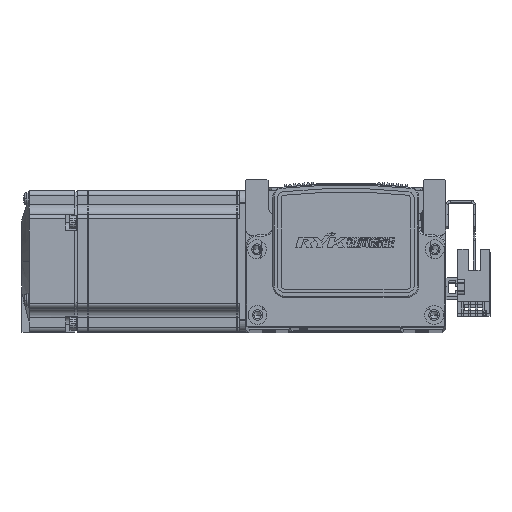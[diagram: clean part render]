
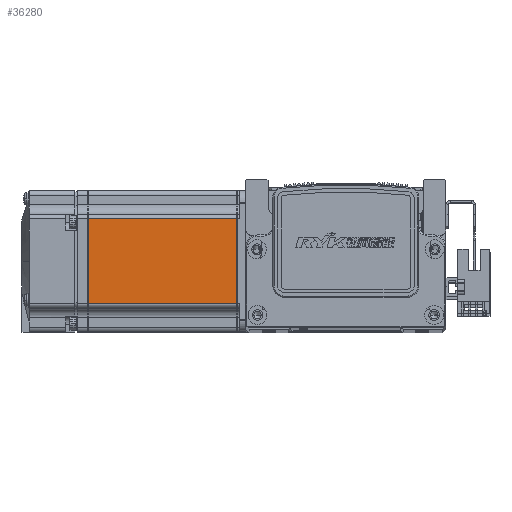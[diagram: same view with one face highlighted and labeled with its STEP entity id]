
A CAD part, top view. The second image highlights one B-rep face of the part: STEP entity #36280.
In plain terms, the highlighted planar face has unit normal (0, 0, 1) as drawn and (0, 0, -1) by its records, which use the part's own axes.
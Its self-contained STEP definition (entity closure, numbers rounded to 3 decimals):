
#4147 = EDGE_CURVE ( 'NONE', #25781, #33731, #50949, .T. ) ;
#4187 = EDGE_CURVE ( 'NONE', #33731, #33711, #51004, .T. ) ;
#4189 = EDGE_CURVE ( 'NONE', #25749, #25781, #50448, .T. ) ;
#8263 = AXIS2_PLACEMENT_3D ( 'NONE', #53186, #53189, #53206 ) ;
#21088 = EDGE_CURVE ( 'NONE', #33711, #25749, #42896, .T. ) ;
#24247 = ORIENTED_EDGE ( 'NONE', *, *, #4189, .T. ) ;
#24249 = ORIENTED_EDGE ( 'NONE', *, *, #21088, .T. ) ;
#24286 = ORIENTED_EDGE ( 'NONE', *, *, #4147, .T. ) ;
#24367 = ORIENTED_EDGE ( 'NONE', *, *, #4187, .T. ) ;
#25749 = VERTEX_POINT ( 'NONE', #63737 ) ;
#25781 = VERTEX_POINT ( 'NONE', #63713 ) ;
#33711 = VERTEX_POINT ( 'NONE', #64392 ) ;
#33731 = VERTEX_POINT ( 'NONE', #64346 ) ;
#36280 = ADVANCED_FACE ( 'NONE', ( #77542 ), #53220, .T. ) ;
#42894 = VECTOR ( 'NONE', #44432, 1000. ) ;
#42896 = LINE ( 'NONE', #44431, #42894 ) ;
#44431 = CARTESIAN_POINT ( 'NONE',  ( -7.75, 25., -30. ) ) ;
#44432 = DIRECTION ( 'NONE',  ( 0., -1., 0. ) ) ;
#50448 = LINE ( 'NONE', #57147, #50452 ) ;
#50452 = VECTOR ( 'NONE', #57154, 1000. ) ;
#50949 = LINE ( 'NONE', #57058, #50953 ) ;
#50953 = VECTOR ( 'NONE', #57075, 1000. ) ;
#51004 = LINE ( 'NONE', #57139, #51025 ) ;
#51025 = VECTOR ( 'NONE', #57148, 1000. ) ;
#53186 = CARTESIAN_POINT ( 'NONE',  ( -6.5, 25., -30. ) ) ;
#53189 = DIRECTION ( 'NONE',  ( 0., 0., -1. ) ) ;
#53206 = DIRECTION ( 'NONE',  ( -1., 0., 0. ) ) ;
#53220 = PLANE ( 'NONE',  #8263 ) ;
#57058 = CARTESIAN_POINT ( 'NONE',  ( -70.95, 25., -30. ) ) ;
#57075 = DIRECTION ( 'NONE',  ( 0., 1., 0. ) ) ;
#57139 = CARTESIAN_POINT ( 'NONE',  ( -6.5, 18., -30. ) ) ;
#57147 = CARTESIAN_POINT ( 'NONE',  ( -6.5, -18., -30. ) ) ;
#57148 = DIRECTION ( 'NONE',  ( 1., 0., 0. ) ) ;
#57154 = DIRECTION ( 'NONE',  ( -1., 0., 0. ) ) ;
#63713 = CARTESIAN_POINT ( 'NONE',  ( -70.95, -18., -30. ) ) ;
#63737 = CARTESIAN_POINT ( 'NONE',  ( -7.75, -18., -30. ) ) ;
#64346 = CARTESIAN_POINT ( 'NONE',  ( -70.95, 18., -30. ) ) ;
#64392 = CARTESIAN_POINT ( 'NONE',  ( -7.75, 18., -30. ) ) ;
#73829 = EDGE_LOOP ( 'NONE', ( #24249, #24247, #24286, #24367 ) ) ;
#77542 = FACE_OUTER_BOUND ( 'NONE', #73829, .T. ) ;
